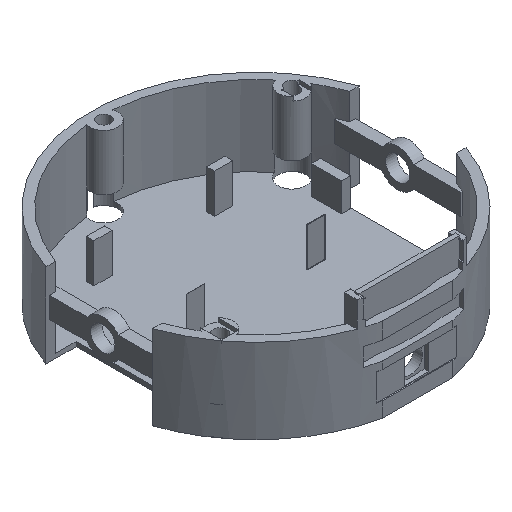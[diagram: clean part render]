
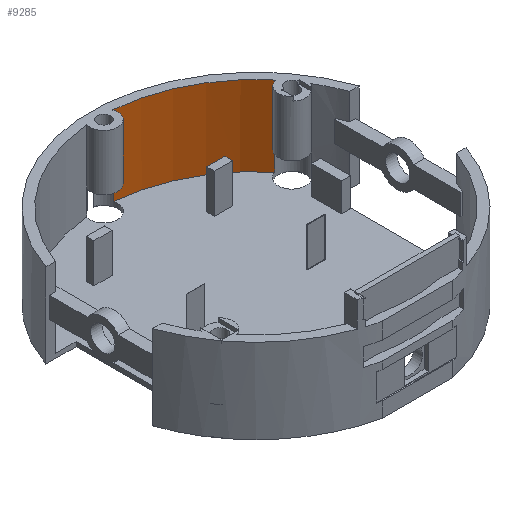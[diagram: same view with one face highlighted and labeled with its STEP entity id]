
A CAD part, isometric view. The second image highlights one B-rep face of the part: STEP entity #9285.
In plain terms, the highlighted cylindrical face has radius 20.8 mm (diameter 41.6 mm), a partial arc.
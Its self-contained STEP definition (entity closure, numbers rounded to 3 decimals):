
#1627 = PLANE('',#1628);
#1628 = AXIS2_PLACEMENT_3D('',#1629,#1630,#1631);
#1629 = CARTESIAN_POINT('',(0.,0.,0.8));
#1630 = DIRECTION('',(0.,0.,1.));
#1631 = DIRECTION('',(1.,0.,-0.));
#2251 = VERTEX_POINT('',#2252);
#2252 = CARTESIAN_POINT('',(15.92,13.387,0.8));
#2267 = CYLINDRICAL_SURFACE('',#2268,1.85);
#2268 = AXIS2_PLACEMENT_3D('',#2269,#2270,#2271);
#2269 = CARTESIAN_POINT('',(16.4,11.6,-0.1));
#2270 = DIRECTION('',(0.,0.,1.));
#2271 = DIRECTION('',(1.,0.,-0.));
#2279 = EDGE_CURVE('',#2251,#2280,#2282,.T.);
#2280 = VERTEX_POINT('',#2281);
#2281 = CARTESIAN_POINT('',(1.774,20.724,0.8));
#2282 = SURFACE_CURVE('',#2283,(#2288,#2295),.PCURVE_S1.);
#2283 = CIRCLE('',#2284,20.8);
#2284 = AXIS2_PLACEMENT_3D('',#2285,#2286,#2287);
#2285 = CARTESIAN_POINT('',(0.,0.,0.8));
#2286 = DIRECTION('',(0.,0.,1.));
#2287 = DIRECTION('',(1.,0.,-0.));
#2288 = PCURVE('',#1627,#2289);
#2289 = DEFINITIONAL_REPRESENTATION('',(#2290),#2294);
#2290 = CIRCLE('',#2291,20.8);
#2291 = AXIS2_PLACEMENT_2D('',#2292,#2293);
#2292 = CARTESIAN_POINT('',(0.,0.));
#2293 = DIRECTION('',(1.,0.));
#2294 = ( GEOMETRIC_REPRESENTATION_CONTEXT(2) 
PARAMETRIC_REPRESENTATION_CONTEXT() REPRESENTATION_CONTEXT('2D SPACE',''
  ) );
#2295 = PCURVE('',#2296,#2301);
#2296 = CYLINDRICAL_SURFACE('',#2297,20.8);
#2297 = AXIS2_PLACEMENT_3D('',#2298,#2299,#2300);
#2298 = CARTESIAN_POINT('',(0.,0.,0.8));
#2299 = DIRECTION('',(0.,0.,1.));
#2300 = DIRECTION('',(1.,0.,-0.));
#2301 = DEFINITIONAL_REPRESENTATION('',(#2302),#2306);
#2302 = LINE('',#2303,#2304);
#2303 = CARTESIAN_POINT('',(0.,0.));
#2304 = VECTOR('',#2305,1.);
#2305 = DIRECTION('',(1.,0.));
#2306 = ( GEOMETRIC_REPRESENTATION_CONTEXT(2) 
PARAMETRIC_REPRESENTATION_CONTEXT() REPRESENTATION_CONTEXT('2D SPACE',''
  ) );
#2329 = CYLINDRICAL_SURFACE('',#2330,1.85);
#2330 = AXIS2_PLACEMENT_3D('',#2331,#2332,#2333);
#2331 = CARTESIAN_POINT('',(0.,20.2,-0.1));
#2332 = DIRECTION('',(0.,0.,1.));
#2333 = DIRECTION('',(1.,0.,-0.));
#7096 = PLANE('',#7097);
#7097 = AXIS2_PLACEMENT_3D('',#7098,#7099,#7100);
#7098 = CARTESIAN_POINT('',(0.,0.,11.4));
#7099 = DIRECTION('',(0.,0.,1.));
#7100 = DIRECTION('',(1.,0.,-0.));
#7316 = PLANE('',#7317);
#7317 = AXIS2_PLACEMENT_3D('',#7318,#7319,#7320);
#7318 = CARTESIAN_POINT('',(0.,20.2,4.));
#7319 = DIRECTION('',(0.,0.,1.));
#7320 = DIRECTION('',(1.,0.,-0.));
#7401 = EDGE_CURVE('',#7402,#7404,#7406,.T.);
#7402 = VERTEX_POINT('',#7403);
#7403 = CARTESIAN_POINT('',(1.774,20.724,4.));
#7404 = VERTEX_POINT('',#7405);
#7405 = CARTESIAN_POINT('',(1.721,20.729,4.));
#7406 = SURFACE_CURVE('',#7407,(#7412,#7419),.PCURVE_S1.);
#7407 = CIRCLE('',#7408,20.8);
#7408 = AXIS2_PLACEMENT_3D('',#7409,#7410,#7411);
#7409 = CARTESIAN_POINT('',(0.,0.,4.));
#7410 = DIRECTION('',(0.,0.,1.));
#7411 = DIRECTION('',(1.,0.,-0.));
#7412 = PCURVE('',#7316,#7413);
#7413 = DEFINITIONAL_REPRESENTATION('',(#7414),#7418);
#7414 = CIRCLE('',#7415,20.8);
#7415 = AXIS2_PLACEMENT_2D('',#7416,#7417);
#7416 = CARTESIAN_POINT('',(0.,-20.2));
#7417 = DIRECTION('',(1.,0.));
#7418 = ( GEOMETRIC_REPRESENTATION_CONTEXT(2) 
PARAMETRIC_REPRESENTATION_CONTEXT() REPRESENTATION_CONTEXT('2D SPACE',''
  ) );
#7419 = PCURVE('',#2296,#7420);
#7420 = DEFINITIONAL_REPRESENTATION('',(#7421),#7425);
#7421 = LINE('',#7422,#7423);
#7422 = CARTESIAN_POINT('',(0.,3.2));
#7423 = VECTOR('',#7424,1.);
#7424 = DIRECTION('',(1.,0.));
#7425 = ( GEOMETRIC_REPRESENTATION_CONTEXT(2) 
PARAMETRIC_REPRESENTATION_CONTEXT() REPRESENTATION_CONTEXT('2D SPACE',''
  ) );
#7515 = CYLINDRICAL_SURFACE('',#7516,1.8);
#7516 = AXIS2_PLACEMENT_3D('',#7517,#7518,#7519);
#7517 = CARTESIAN_POINT('',(0.,20.2,0.4));
#7518 = DIRECTION('',(0.,0.,1.));
#7519 = DIRECTION('',(1.,0.,-0.));
#7616 = EDGE_CURVE('',#7404,#7617,#7619,.T.);
#7617 = VERTEX_POINT('',#7618);
#7618 = CARTESIAN_POINT('',(1.721,20.729,11.4));
#7619 = SURFACE_CURVE('',#7620,(#7624,#7630),.PCURVE_S1.);
#7620 = LINE('',#7621,#7622);
#7621 = CARTESIAN_POINT('',(1.721,20.729,0.8));
#7622 = VECTOR('',#7623,1.);
#7623 = DIRECTION('',(0.,0.,1.));
#7624 = PCURVE('',#7515,#7625);
#7625 = DEFINITIONAL_REPRESENTATION('',(#7626),#7629);
#7626 = B_SPLINE_CURVE_WITH_KNOTS('',1,(#7627,#7628),.UNSPECIFIED.,.F.,
  .F.,(2,2),(3.2,10.6),.PIECEWISE_BEZIER_KNOTS.);
#7627 = CARTESIAN_POINT('',(6.581,3.6));
#7628 = CARTESIAN_POINT('',(6.581,11.));
#7629 = ( GEOMETRIC_REPRESENTATION_CONTEXT(2) 
PARAMETRIC_REPRESENTATION_CONTEXT() REPRESENTATION_CONTEXT('2D SPACE',''
  ) );
#7630 = PCURVE('',#2296,#7631);
#7631 = DEFINITIONAL_REPRESENTATION('',(#7632),#7635);
#7632 = B_SPLINE_CURVE_WITH_KNOTS('',1,(#7633,#7634),.UNSPECIFIED.,.F.,
  .F.,(2,2),(0.,10.6),.PIECEWISE_BEZIER_KNOTS.);
#7633 = CARTESIAN_POINT('',(1.488,0.));
#7634 = CARTESIAN_POINT('',(1.488,10.6));
#7635 = ( GEOMETRIC_REPRESENTATION_CONTEXT(2) 
PARAMETRIC_REPRESENTATION_CONTEXT() REPRESENTATION_CONTEXT('2D SPACE',''
  ) );
#7730 = EDGE_CURVE('',#7731,#7617,#7733,.T.);
#7731 = VERTEX_POINT('',#7732);
#7732 = CARTESIAN_POINT('',(15.955,13.344,11.4));
#7733 = SURFACE_CURVE('',#7734,(#7739,#7746),.PCURVE_S1.);
#7734 = CIRCLE('',#7735,20.8);
#7735 = AXIS2_PLACEMENT_3D('',#7736,#7737,#7738);
#7736 = CARTESIAN_POINT('',(0.,0.,11.4));
#7737 = DIRECTION('',(0.,0.,1.));
#7738 = DIRECTION('',(1.,0.,-0.));
#7739 = PCURVE('',#7096,#7740);
#7740 = DEFINITIONAL_REPRESENTATION('',(#7741),#7745);
#7741 = CIRCLE('',#7742,20.8);
#7742 = AXIS2_PLACEMENT_2D('',#7743,#7744);
#7743 = CARTESIAN_POINT('',(0.,0.));
#7744 = DIRECTION('',(1.,0.));
#7745 = ( GEOMETRIC_REPRESENTATION_CONTEXT(2) 
PARAMETRIC_REPRESENTATION_CONTEXT() REPRESENTATION_CONTEXT('2D SPACE',''
  ) );
#7746 = PCURVE('',#2296,#7747);
#7747 = DEFINITIONAL_REPRESENTATION('',(#7748),#7752);
#7748 = LINE('',#7749,#7750);
#7749 = CARTESIAN_POINT('',(0.,10.6));
#7750 = VECTOR('',#7751,1.);
#7751 = DIRECTION('',(1.,0.));
#7752 = ( GEOMETRIC_REPRESENTATION_CONTEXT(2) 
PARAMETRIC_REPRESENTATION_CONTEXT() REPRESENTATION_CONTEXT('2D SPACE',''
  ) );
#7771 = CYLINDRICAL_SURFACE('',#7772,1.8);
#7772 = AXIS2_PLACEMENT_3D('',#7773,#7774,#7775);
#7773 = CARTESIAN_POINT('',(16.4,11.6,0.4));
#7774 = DIRECTION('',(0.,0.,1.));
#7775 = DIRECTION('',(1.,0.,-0.));
#8241 = PLANE('',#8242);
#8242 = AXIS2_PLACEMENT_3D('',#8243,#8244,#8245);
#8243 = CARTESIAN_POINT('',(16.4,11.6,4.));
#8244 = DIRECTION('',(0.,0.,1.));
#8245 = DIRECTION('',(1.,0.,-0.));
#8330 = VERTEX_POINT('',#8331);
#8331 = CARTESIAN_POINT('',(15.92,13.387,4.));
#8353 = EDGE_CURVE('',#8354,#8330,#8356,.T.);
#8354 = VERTEX_POINT('',#8355);
#8355 = CARTESIAN_POINT('',(15.955,13.344,4.));
#8356 = SURFACE_CURVE('',#8357,(#8362,#8369),.PCURVE_S1.);
#8357 = CIRCLE('',#8358,20.8);
#8358 = AXIS2_PLACEMENT_3D('',#8359,#8360,#8361);
#8359 = CARTESIAN_POINT('',(0.,0.,4.));
#8360 = DIRECTION('',(0.,0.,1.));
#8361 = DIRECTION('',(1.,0.,-0.));
#8362 = PCURVE('',#8241,#8363);
#8363 = DEFINITIONAL_REPRESENTATION('',(#8364),#8368);
#8364 = CIRCLE('',#8365,20.8);
#8365 = AXIS2_PLACEMENT_2D('',#8366,#8367);
#8366 = CARTESIAN_POINT('',(-16.4,-11.6));
#8367 = DIRECTION('',(1.,0.));
#8368 = ( GEOMETRIC_REPRESENTATION_CONTEXT(2) 
PARAMETRIC_REPRESENTATION_CONTEXT() REPRESENTATION_CONTEXT('2D SPACE',''
  ) );
#8369 = PCURVE('',#2296,#8370);
#8370 = DEFINITIONAL_REPRESENTATION('',(#8371),#8375);
#8371 = LINE('',#8372,#8373);
#8372 = CARTESIAN_POINT('',(0.,3.2));
#8373 = VECTOR('',#8374,1.);
#8374 = DIRECTION('',(1.,0.));
#8375 = ( GEOMETRIC_REPRESENTATION_CONTEXT(2) 
PARAMETRIC_REPRESENTATION_CONTEXT() REPRESENTATION_CONTEXT('2D SPACE',''
  ) );
#8482 = EDGE_CURVE('',#8354,#7731,#8483,.T.);
#8483 = SURFACE_CURVE('',#8484,(#8488,#8494),.PCURVE_S1.);
#8484 = LINE('',#8485,#8486);
#8485 = CARTESIAN_POINT('',(15.955,13.344,0.8));
#8486 = VECTOR('',#8487,1.);
#8487 = DIRECTION('',(0.,0.,1.));
#8488 = PCURVE('',#7771,#8489);
#8489 = DEFINITIONAL_REPRESENTATION('',(#8490),#8493);
#8490 = B_SPLINE_CURVE_WITH_KNOTS('',1,(#8491,#8492),.UNSPECIFIED.,.F.,
  .F.,(2,2),(0.,10.6),.PIECEWISE_BEZIER_KNOTS.);
#8491 = CARTESIAN_POINT('',(1.82,0.4));
#8492 = CARTESIAN_POINT('',(1.82,11.));
#8493 = ( GEOMETRIC_REPRESENTATION_CONTEXT(2) 
PARAMETRIC_REPRESENTATION_CONTEXT() REPRESENTATION_CONTEXT('2D SPACE',''
  ) );
#8494 = PCURVE('',#2296,#8495);
#8495 = DEFINITIONAL_REPRESENTATION('',(#8496),#8499);
#8496 = B_SPLINE_CURVE_WITH_KNOTS('',1,(#8497,#8498),.UNSPECIFIED.,.F.,
  .F.,(2,2),(0.,10.6),.PIECEWISE_BEZIER_KNOTS.);
#8497 = CARTESIAN_POINT('',(0.697,0.));
#8498 = CARTESIAN_POINT('',(0.697,10.6));
#8499 = ( GEOMETRIC_REPRESENTATION_CONTEXT(2) 
PARAMETRIC_REPRESENTATION_CONTEXT() REPRESENTATION_CONTEXT('2D SPACE',''
  ) );
#9240 = EDGE_CURVE('',#2280,#7402,#9241,.T.);
#9241 = SURFACE_CURVE('',#9242,(#9246,#9252),.PCURVE_S1.);
#9242 = LINE('',#9243,#9244);
#9243 = CARTESIAN_POINT('',(1.774,20.724,0.8));
#9244 = VECTOR('',#9245,1.);
#9245 = DIRECTION('',(0.,0.,1.));
#9246 = PCURVE('',#2329,#9247);
#9247 = DEFINITIONAL_REPRESENTATION('',(#9248),#9251);
#9248 = B_SPLINE_CURVE_WITH_KNOTS('',1,(#9249,#9250),.UNSPECIFIED.,.F.,
  .F.,(2,2),(0.,3.2),.PIECEWISE_BEZIER_KNOTS.);
#9249 = CARTESIAN_POINT('',(6.57,0.9));
#9250 = CARTESIAN_POINT('',(6.57,4.1));
#9251 = ( GEOMETRIC_REPRESENTATION_CONTEXT(2) 
PARAMETRIC_REPRESENTATION_CONTEXT() REPRESENTATION_CONTEXT('2D SPACE',''
  ) );
#9252 = PCURVE('',#2296,#9253);
#9253 = DEFINITIONAL_REPRESENTATION('',(#9254),#9257);
#9254 = B_SPLINE_CURVE_WITH_KNOTS('',1,(#9255,#9256),.UNSPECIFIED.,.F.,
  .F.,(2,2),(0.,3.2),.PIECEWISE_BEZIER_KNOTS.);
#9255 = CARTESIAN_POINT('',(1.485,0.));
#9256 = CARTESIAN_POINT('',(1.485,3.2));
#9257 = ( GEOMETRIC_REPRESENTATION_CONTEXT(2) 
PARAMETRIC_REPRESENTATION_CONTEXT() REPRESENTATION_CONTEXT('2D SPACE',''
  ) );
#9285 = ADVANCED_FACE('',(#9286),#2296,.F.);
#9286 = FACE_BOUND('',#9287,.F.);
#9287 = EDGE_LOOP('',(#9288,#9289,#9290,#9291,#9310,#9311,#9312,#9313));
#9288 = ORIENTED_EDGE('',*,*,#7730,.F.);
#9289 = ORIENTED_EDGE('',*,*,#8482,.F.);
#9290 = ORIENTED_EDGE('',*,*,#8353,.T.);
#9291 = ORIENTED_EDGE('',*,*,#9292,.F.);
#9292 = EDGE_CURVE('',#2251,#8330,#9293,.T.);
#9293 = SURFACE_CURVE('',#9294,(#9298,#9304),.PCURVE_S1.);
#9294 = LINE('',#9295,#9296);
#9295 = CARTESIAN_POINT('',(15.92,13.387,0.8));
#9296 = VECTOR('',#9297,1.);
#9297 = DIRECTION('',(0.,0.,1.));
#9298 = PCURVE('',#2296,#9299);
#9299 = DEFINITIONAL_REPRESENTATION('',(#9300),#9303);
#9300 = B_SPLINE_CURVE_WITH_KNOTS('',1,(#9301,#9302),.UNSPECIFIED.,.F.,
  .F.,(2,2),(0.,3.2),.PIECEWISE_BEZIER_KNOTS.);
#9301 = CARTESIAN_POINT('',(0.699,0.));
#9302 = CARTESIAN_POINT('',(0.699,3.2));
#9303 = ( GEOMETRIC_REPRESENTATION_CONTEXT(2) 
PARAMETRIC_REPRESENTATION_CONTEXT() REPRESENTATION_CONTEXT('2D SPACE',''
  ) );
#9304 = PCURVE('',#2267,#9305);
#9305 = DEFINITIONAL_REPRESENTATION('',(#9306),#9309);
#9306 = B_SPLINE_CURVE_WITH_KNOTS('',1,(#9307,#9308),.UNSPECIFIED.,.F.,
  .F.,(2,2),(0.,3.2),.PIECEWISE_BEZIER_KNOTS.);
#9307 = CARTESIAN_POINT('',(1.833,0.9));
#9308 = CARTESIAN_POINT('',(1.833,4.1));
#9309 = ( GEOMETRIC_REPRESENTATION_CONTEXT(2) 
PARAMETRIC_REPRESENTATION_CONTEXT() REPRESENTATION_CONTEXT('2D SPACE',''
  ) );
#9310 = ORIENTED_EDGE('',*,*,#2279,.T.);
#9311 = ORIENTED_EDGE('',*,*,#9240,.T.);
#9312 = ORIENTED_EDGE('',*,*,#7401,.T.);
#9313 = ORIENTED_EDGE('',*,*,#7616,.T.);
